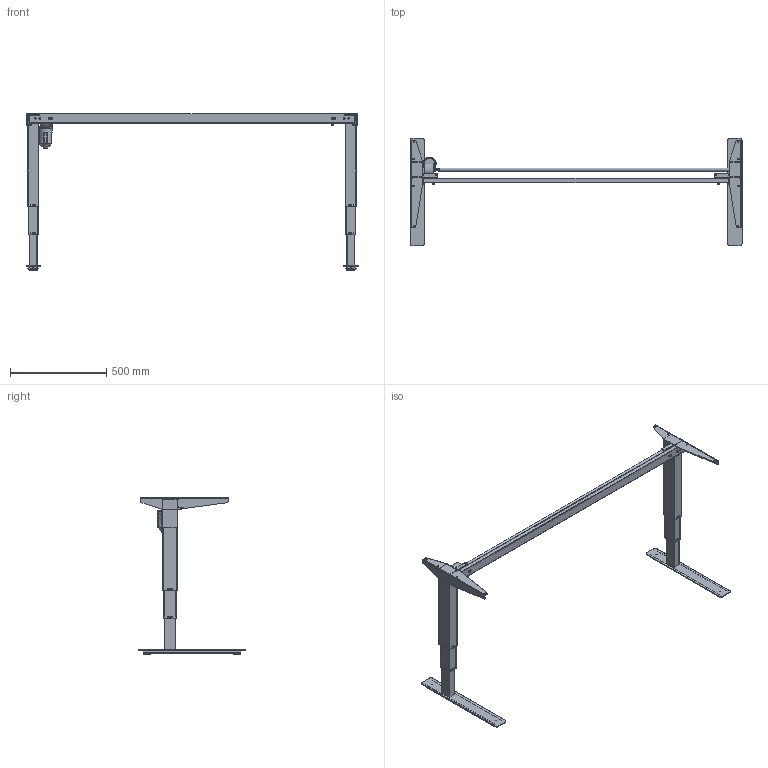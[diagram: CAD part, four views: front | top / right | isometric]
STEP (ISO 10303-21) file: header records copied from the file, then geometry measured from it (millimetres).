
FILE_DESCRIPTION (( 'STEP AP203' ), '1' );
FILE_NAME ('Tech-draw_501-37_XX172.STEP', '2019-09-25T11:35:21', ( '' ), ( '' ), 'SwSTEP 2.0', 'SolidWorks 2018', '' );
FILE_SCHEMA (( 'CONFIG_CONTROL_DESIGN' ));
Length unit declared in the file: millimetre
Products named in the file (32): 347920_172; 138790_silver1; 340760; 352610; 341140_shell view; 344430_silver; 341150_shell view; 138780_silver; 347910_172; 344070_shell view; 144260_172; 148070_silver1; 341180_shell view; 138800_silver1; 324520_silver; 138750_silver; 134950_silver1; 341170_shell view; Tech-draw_501-37_XX172; 348720_shell view; 134920_silver1; 344080; 341800_silver; 332570; 341120; 340540_shell view; 138760_silver; 340560; 138770_silver; 341130; 149010_501-37 XS172; 341220
Assembly tree (59 placements, depth 6):
  Tech-draw_501-37_XX172
    149010_501-37 XS172
      347910_172
      144260_172
        347920_172
        340560
        341220
      138760_silver
        148070_silver1
          341130
          341180_shell view
          348720_shell view
        138780_silver
          138800_silver1
            341150_shell view
            344070_shell view
            344080
          134950_silver1
            341140_shell view
          341800_silver  x4
        341800_silver  x4
        324520_silver  x2
        344430_silver
        352610
      138750_silver
        134920_silver1
          341120
          341170_shell view
          340540_shell view
        138770_silver
          138790_silver1
            341150_shell view
            344070_shell view
            344080
          134950_silver1
            341140_shell view
          341800_silver  x4
        341800_silver  x4
        324520_silver  x2
      340760  x4
      332570  x4
Bounding box: 1729 x 558.8 x 817 mm (x, y, z)
Volume: 2863279.9 mm3; surface area: 2614457.4 mm2
Topology: 48 solids, 48 shells, 2808 faces, 7150 edges, 4475 vertices
Faces by surface type: plane 1641, cylinder 823, bspline 224, cone 69, torus 51
Full cylindrical faces by diameter (mm): 2.8 x4, 3 x2, 4.6 x4, 5 x4, 6 x10, 7 x8, 7.6 x4, 8 x13, 10 x8, 11.9 x2, 12 x1, 13 x2, 15 x4, 16 x2, 18 x1, 20 x1, 37.6 x8, 60 x1
Entity records: 70590 total; most frequent: CARTESIAN_POINT 30171, ORIENTED_EDGE 7766, DIRECTION 7278, EDGE_CURVE 3883, AXIS2_PLACEMENT_3D 2658, VERTEX_POINT 2509, VECTOR 1962, LINE 1962
